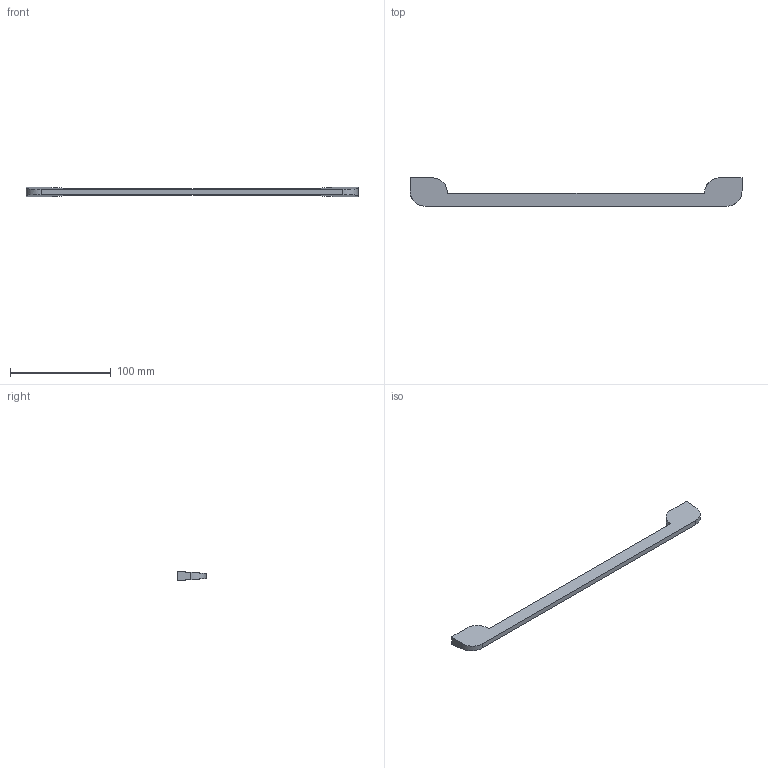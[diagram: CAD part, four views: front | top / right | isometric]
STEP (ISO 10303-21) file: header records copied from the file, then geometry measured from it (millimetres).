
FILE_DESCRIPTION( ( 'STEP AP214' ), '1' );
FILE_NAME( 'C:/Users/swati/Swati/Swati/29-02-2016/9207427/9207427.stp', ' ', ( ' ' ), ( ' ' ), 'PSStep 15.0.47', 'PARTsolutions', ' ' );
FILE_SCHEMA( ( 'AUTOMOTIVE_DESIGN { 1 0 10303 214 1 1 1 1 }' ) );
Length unit declared in the file: millimetre
Products named in the file (2): 95 ; _
Assembly tree (1 placements, depth 2):
  95 
    _
Bounding box: 329 x 28 x 9 mm (x, y, z)
Volume: 32353.5 mm3; surface area: 15373.1 mm2
Topology: 1 solids, 1 shells, 22 faces, 54 edges, 36 vertices
Faces by surface type: plane 12, cylinder 10
Full cylindrical faces by diameter (mm): 4 x4
Entity records: 864 total; most frequent: CARTESIAN_POINT 140, DIRECTION 114, ORIENTED_EDGE 96, EDGE_CURVE 48, AXIS2_PLACEMENT_3D 44, VERTEX_POINT 34, EDGE_LOOP 28, FACE_OUTER_BOUND 26
